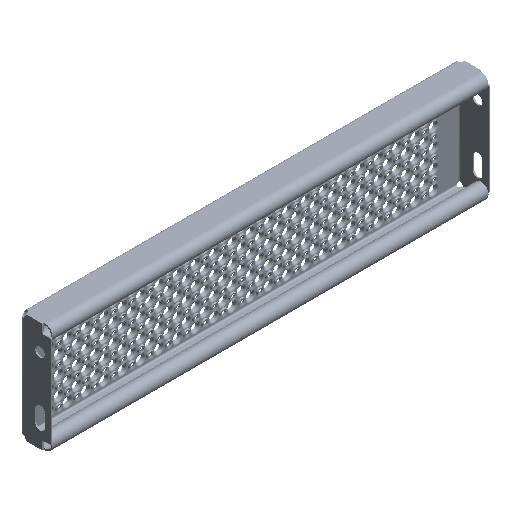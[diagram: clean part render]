
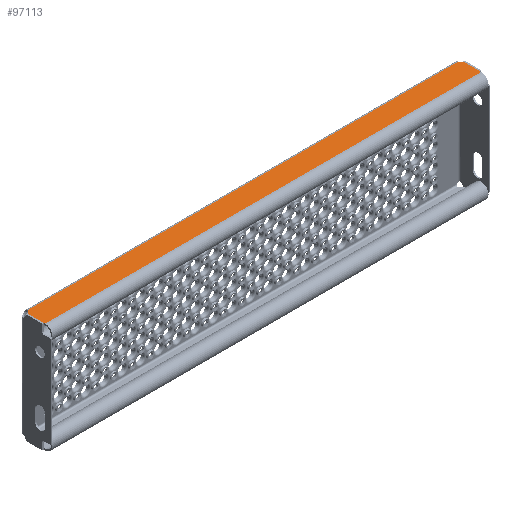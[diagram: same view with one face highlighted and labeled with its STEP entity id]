
A CAD part, isometric view. The second image highlights one B-rep face of the part: STEP entity #97113.
In plain terms, the highlighted planar face has unit normal (0, 0, 1).
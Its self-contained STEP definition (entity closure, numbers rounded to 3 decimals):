
#1563 = EDGE_CURVE ( 'NONE', #42485, #51215, #89558, .T. ) ;
#4767 = CARTESIAN_POINT ( 'NONE',  ( -297.99, -7.185, 75. ) ) ;
#5684 = VERTEX_POINT ( 'NONE', #54984 ) ;
#6040 = EDGE_CURVE ( 'NONE', #99197, #97294, #135957, .T. ) ;
#6788 = VECTOR ( 'NONE', #79134, 1000. ) ;
#8806 = VERTEX_POINT ( 'NONE', #76788 ) ;
#13598 = EDGE_CURVE ( 'NONE', #42485, #99197, #105816, .T. ) ;
#21289 = CARTESIAN_POINT ( 'NONE',  ( 297.99, -7.185, 75. ) ) ;
#22034 = DIRECTION ( 'NONE',  ( 0., 0., -1. ) ) ;
#29009 = DIRECTION ( 'NONE',  ( 1., 0., 0. ) ) ;
#38279 = CARTESIAN_POINT ( 'NONE',  ( -294.302, -4., 75. ) ) ;
#39338 = VECTOR ( 'NONE', #29009, 1000. ) ;
#41389 = LINE ( 'NONE', #21289, #143572 ) ;
#42485 = VERTEX_POINT ( 'NONE', #38279 ) ;
#43449 = DIRECTION ( 'NONE',  ( 0., -1., 0. ) ) ;
#44312 = ORIENTED_EDGE ( 'NONE', *, *, #69131, .T. ) ;
#44453 = DIRECTION ( 'NONE',  ( 0., 1., 0. ) ) ;
#45228 = CARTESIAN_POINT ( 'NONE',  ( -299., 145.712, 75. ) ) ;
#51215 = VERTEX_POINT ( 'NONE', #66837 ) ;
#51465 = AXIS2_PLACEMENT_3D ( 'NONE', #79251, #126410, #43449 ) ;
#52303 = EDGE_CURVE ( 'NONE', #97294, #8806, #101594, .T. ) ;
#54984 = CARTESIAN_POINT ( 'NONE',  ( 297.99, -7.185, 75. ) ) ;
#58408 = FACE_OUTER_BOUND ( 'NONE', #114685, .T. ) ;
#66837 = CARTESIAN_POINT ( 'NONE',  ( 294.302, -4., 75. ) ) ;
#69131 = EDGE_CURVE ( 'NONE', #5684, #51215, #118302, .T. ) ;
#75659 = CARTESIAN_POINT ( 'NONE',  ( -299., -4., 75. ) ) ;
#76222 = AXIS2_PLACEMENT_3D ( 'NONE', #116584, #22034, #128921 ) ;
#76788 = CARTESIAN_POINT ( 'NONE',  ( 297.99, -31.998, 75. ) ) ;
#77173 = DIRECTION ( 'NONE',  ( 0., -1., 0. ) ) ;
#79122 = ORIENTED_EDGE ( 'NONE', *, *, #141379, .T. ) ;
#79134 = DIRECTION ( 'NONE',  ( 1., 0., 0. ) ) ;
#79251 = CARTESIAN_POINT ( 'NONE',  ( 299., -2.288, 75. ) ) ;
#82468 = ORIENTED_EDGE ( 'NONE', *, *, #1563, .F. ) ;
#82555 = DIRECTION ( 'NONE',  ( 0., 0., 1. ) ) ;
#89558 = LINE ( 'NONE', #75659, #39338 ) ;
#92035 = ORIENTED_EDGE ( 'NONE', *, *, #52303, .T. ) ;
#97113 = ADVANCED_FACE ( 'NONE', ( #58408 ), #141306, .T. ) ;
#97294 = VERTEX_POINT ( 'NONE', #121906 ) ;
#98068 = CARTESIAN_POINT ( 'NONE',  ( -297.99, -7.185, 75. ) ) ;
#99197 = VERTEX_POINT ( 'NONE', #4767 ) ;
#101594 = LINE ( 'NONE', #102349, #6788 ) ;
#102349 = CARTESIAN_POINT ( 'NONE',  ( -297.99, -31.998, 75. ) ) ;
#102357 = ORIENTED_EDGE ( 'NONE', *, *, #6040, .T. ) ;
#105816 = CIRCLE ( 'NONE', #76222, 5. ) ;
#109741 = ORIENTED_EDGE ( 'NONE', *, *, #13598, .T. ) ;
#109816 = VECTOR ( 'NONE', #77173, 1000. ) ;
#114685 = EDGE_LOOP ( 'NONE', ( #92035, #79122, #44312, #82468, #109741, #102357 ) ) ;
#116584 = CARTESIAN_POINT ( 'NONE',  ( -299., -2.288, 75. ) ) ;
#118302 = CIRCLE ( 'NONE', #51465, 5. ) ;
#121906 = CARTESIAN_POINT ( 'NONE',  ( -297.99, -31.998, 75. ) ) ;
#126410 = DIRECTION ( 'NONE',  ( 0., 0., -1. ) ) ;
#128161 = DIRECTION ( 'NONE',  ( 0., -1., 0. ) ) ;
#128921 = DIRECTION ( 'NONE',  ( 0., -1., 0. ) ) ;
#135957 = LINE ( 'NONE', #98068, #109816 ) ;
#141306 = PLANE ( 'NONE',  #146031 ) ;
#141379 = EDGE_CURVE ( 'NONE', #8806, #5684, #41389, .T. ) ;
#143572 = VECTOR ( 'NONE', #44453, 1000. ) ;
#146031 = AXIS2_PLACEMENT_3D ( 'NONE', #45228, #82555, #128161 ) ;
